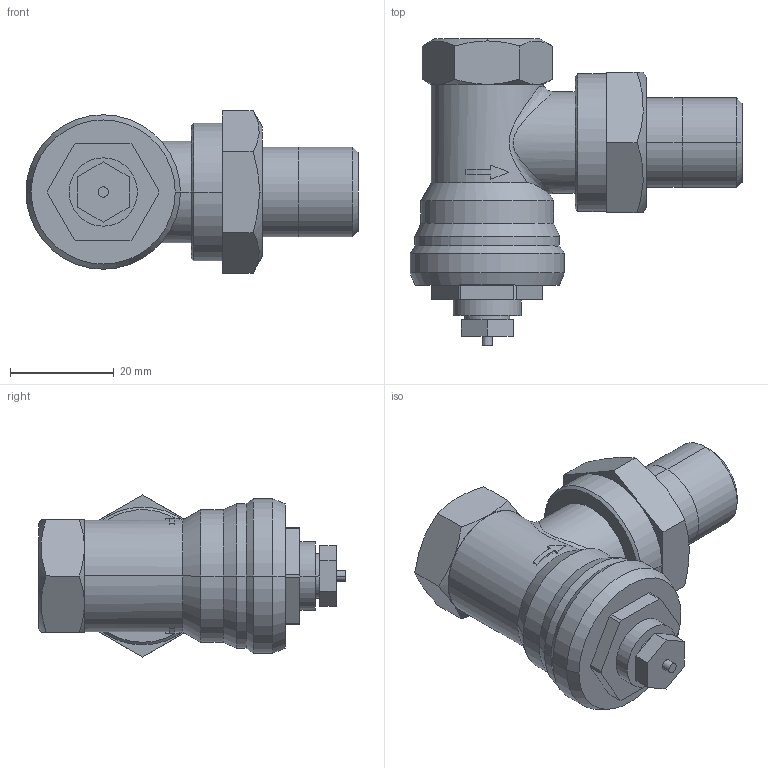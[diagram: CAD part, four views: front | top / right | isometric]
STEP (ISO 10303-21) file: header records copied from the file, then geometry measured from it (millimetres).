
FILE_DESCRIPTION((''),'2;1');
FILE_NAME('000040.stp','2006-09-29T17:14:27',(''),(''),'Mechanical Desktop 2006','Mechanical Desktop 2006',', , ');
FILE_SCHEMA(('AUTOMOTIVE_DESIGN { 1 2 10303 214 0 1 1 1 }'));
Length unit declared in the file: millimetre
Products named in the file (1): Product
Bounding box: 63.85 x 59 x 31.18 mm (x, y, z)
Volume: 33076.2 mm3; surface area: 11138.7 mm2
Topology: 10 solids, 10 shells, 122 faces, 276 edges, 177 vertices
Faces by surface type: plane 58, cylinder 30, cone 24, bspline 10
Entity records: 3822 total; most frequent: CARTESIAN_POINT 1075, DIRECTION 556, ORIENTED_EDGE 552, EDGE_CURVE 276, AXIS2_PLACEMENT_3D 206, VERTEX_POINT 177, VECTOR 144, LINE 144
